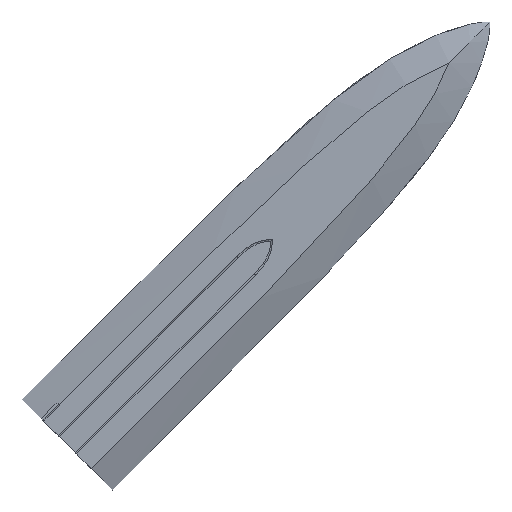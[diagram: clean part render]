
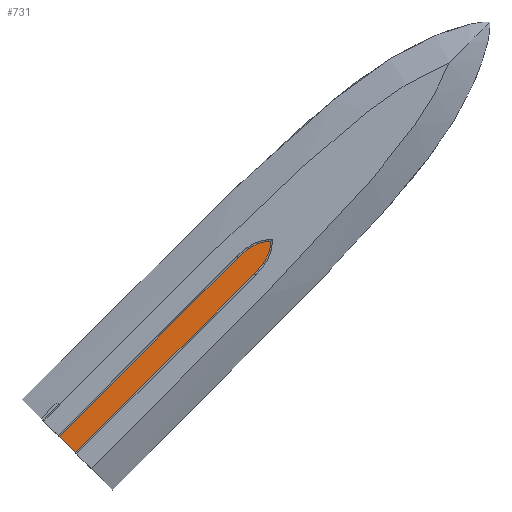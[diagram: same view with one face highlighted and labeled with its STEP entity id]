
A CAD part, top view. The second image highlights one B-rep face of the part: STEP entity #731.
In plain terms, the highlighted planar face has unit normal (0, 0, 1).
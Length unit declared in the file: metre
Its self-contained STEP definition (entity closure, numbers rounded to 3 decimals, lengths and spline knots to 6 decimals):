
#71=LINE('',#1021,#113);
#78=LINE('',#1700,#120);
#79=LINE('',#1702,#121);
#113=VECTOR('',#852,1.);
#120=VECTOR('',#867,1.);
#121=VECTOR('',#868,1.);
#195=ORIENTED_EDGE('',*,*,#420,.T.);
#196=ORIENTED_EDGE('',*,*,#402,.T.);
#197=ORIENTED_EDGE('',*,*,#421,.T.);
#198=ORIENTED_EDGE('',*,*,#422,.T.);
#199=ORIENTED_EDGE('',*,*,#423,.T.);
#402=EDGE_CURVE('',#519,#518,#71,.T.);
#420=EDGE_CURVE('',#531,#519,#78,.T.);
#421=EDGE_CURVE('',#518,#532,#79,.F.);
#422=EDGE_CURVE('',#532,#533,#581,.T.);
#423=EDGE_CURVE('',#533,#531,#582,.T.);
#518=VERTEX_POINT('',#1020);
#519=VERTEX_POINT('',#1022);
#531=VERTEX_POINT('',#1701);
#532=VERTEX_POINT('',#1703);
#533=VERTEX_POINT('',#1711);
#581=B_SPLINE_CURVE_WITH_KNOTS('',3,(#1704,#1705,#1706,#1707,#1708,#1709,
#1710),.UNSPECIFIED.,.F.,.F.,(4,1,1,1,4),(0.,0.002451,
0.004902,0.007353,0.009803),
 .UNSPECIFIED.);
#582=B_SPLINE_CURVE_WITH_KNOTS('',3,(#1712,#1713,#1714,#1715,#1716,#1717,
#1718),.UNSPECIFIED.,.F.,.F.,(4,1,1,1,4),(0.,0.002481,0.004962,
0.007442,0.009923),.UNSPECIFIED.);
#629=EDGE_LOOP('',(#195,#196,#197,#198,#199));
#674=FACE_BOUND('',#629,.T.);
#716=PLANE('',#795);
#731=ADVANCED_FACE('',(#674),#716,.T.);
#795=AXIS2_PLACEMENT_3D('',#1699,#865,#866);
#852=DIRECTION('',(0.707,-0.707,0.));
#865=DIRECTION('',(0.,0.,1.));
#866=DIRECTION('',(1.,0.,0.));
#867=DIRECTION('',(-0.707,-0.707,0.));
#868=DIRECTION('',(-0.707,-0.707,0.));
#1020=CARTESIAN_POINT('',(0.260931,0.306527,0.004044));
#1021=CARTESIAN_POINT('',(0.258799,0.308659,0.004044));
#1022=CARTESIAN_POINT('',(0.256668,0.31079,0.004044));
#1699=CARTESIAN_POINT('',(0.097081,0.146941,0.004044));
#1700=CARTESIAN_POINT('',(0.049405,0.103527,0.004044));
#1701=CARTESIAN_POINT('',(0.303718,0.35784,0.004044));
#1702=CARTESIAN_POINT('',(0.099213,0.144809,0.004044));
#1703=CARTESIAN_POINT('',(0.30798,0.353577,0.004044));
#1704=CARTESIAN_POINT('',(0.30798,0.353577,0.004044));
#1705=CARTESIAN_POINT('',(0.308563,0.354158,0.004044));
#1706=CARTESIAN_POINT('',(0.309678,0.355356,0.004044));
#1707=CARTESIAN_POINT('',(0.311108,0.357369,0.004044));
#1708=CARTESIAN_POINT('',(0.312044,0.359678,0.004044));
#1709=CARTESIAN_POINT('',(0.312254,0.361331,0.004044));
#1710=CARTESIAN_POINT('',(0.312299,0.362158,0.004044));
#1711=CARTESIAN_POINT('',(0.312299,0.362158,0.004044));
#1712=CARTESIAN_POINT('',(0.312299,0.362158,0.004044));
#1713=CARTESIAN_POINT('',(0.311471,0.362114,0.004044));
#1714=CARTESIAN_POINT('',(0.309818,0.361904,0.004044));
#1715=CARTESIAN_POINT('',(0.307509,0.360967,0.004044));
#1716=CARTESIAN_POINT('',(0.305496,0.359538,0.004044));
#1717=CARTESIAN_POINT('',(0.304298,0.358423,0.004044));
#1718=CARTESIAN_POINT('',(0.303718,0.35784,0.004044));
